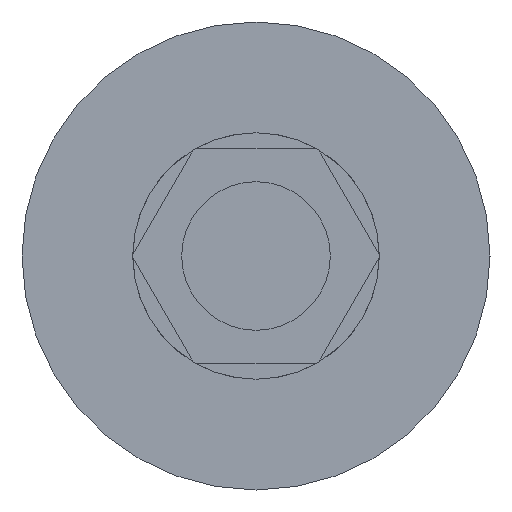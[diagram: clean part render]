
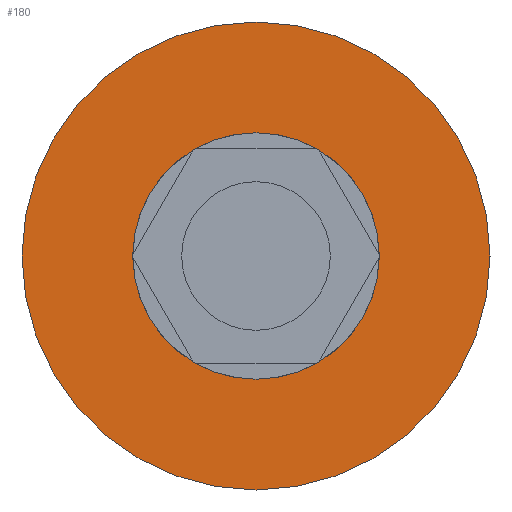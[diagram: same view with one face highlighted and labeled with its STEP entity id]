
A CAD part, left-side view. The second image highlights one B-rep face of the part: STEP entity #180.
In plain terms, the highlighted planar face has unit normal (-1, 0, 0).
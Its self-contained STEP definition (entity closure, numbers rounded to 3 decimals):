
#180=ADVANCED_FACE('',(#366,#367),#368,.T.);
#366=FACE_OUTER_BOUND('',#551,.T.);
#367=FACE_BOUND('',#552,.T.);
#368=PLANE('',#553);
#551=EDGE_LOOP('',(#993,#994));
#552=EDGE_LOOP('',(#995,#996));
#553=AXIS2_PLACEMENT_3D('',#997,#998,#999);
#993=ORIENTED_EDGE('',*,*,#1050,.F.);
#994=ORIENTED_EDGE('',*,*,#1208,.F.);
#995=ORIENTED_EDGE('',*,*,#1069,.T.);
#996=ORIENTED_EDGE('',*,*,#1206,.T.);
#997=CARTESIAN_POINT('',(11.2,15.8,0.0));
#998=DIRECTION('',(-1.0,0.0,0.0));
#999=DIRECTION('',(0.0,0.0,1.0));
#1050=EDGE_CURVE('',#1237,#1240,#1241,.T.);
#1069=EDGE_CURVE('',#1247,#1275,#1277,.T.);
#1206=EDGE_CURVE('',#1275,#1247,#1467,.T.);
#1208=EDGE_CURVE('',#1240,#1237,#1469,.T.);
#1237=VERTEX_POINT('',#1569);
#1240=VERTEX_POINT('',#1573);
#1241=CIRCLE('',#1574,20.7);
#1247=VERTEX_POINT('',#1581);
#1275=VERTEX_POINT('',#1616);
#1277=CIRCLE('',#1619,10.9);
#1467=CIRCLE('',#1917,10.9);
#1469=CIRCLE('',#1919,20.7);
#1569=CARTESIAN_POINT('',(11.2,20.7,0.0));
#1573=CARTESIAN_POINT('',(11.2,-20.7,0.));
#1574=AXIS2_PLACEMENT_3D('',#1938,#1939,#1940);
#1581=CARTESIAN_POINT('',(11.2,10.9,0.0));
#1616=CARTESIAN_POINT('',(11.2,-10.9,0.));
#1619=AXIS2_PLACEMENT_3D('',#1974,#1975,#1976);
#1917=AXIS2_PLACEMENT_3D('',#2152,#2153,#2154);
#1919=AXIS2_PLACEMENT_3D('',#2155,#2156,#2157);
#1938=CARTESIAN_POINT('',(11.2,0.0,0.0));
#1939=DIRECTION('',(1.0,0.0,0.0));
#1940=DIRECTION('',(0.0,1.0,0.0));
#1974=CARTESIAN_POINT('',(11.2,0.0,0.0));
#1975=DIRECTION('',(1.0,0.0,0.0));
#1976=DIRECTION('',(0.0,1.0,0.0));
#2152=CARTESIAN_POINT('',(11.2,0.0,0.0));
#2153=DIRECTION('',(1.0,0.0,0.0));
#2154=DIRECTION('',(0.0,1.0,0.0));
#2155=CARTESIAN_POINT('',(11.2,0.0,0.0));
#2156=DIRECTION('',(1.0,0.0,0.0));
#2157=DIRECTION('',(0.0,1.0,0.0));
